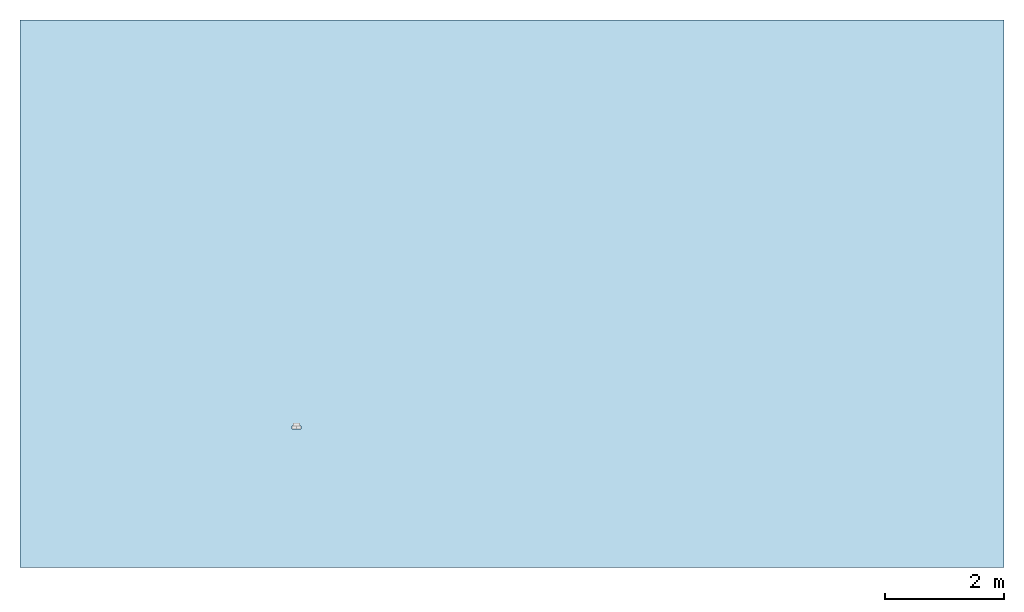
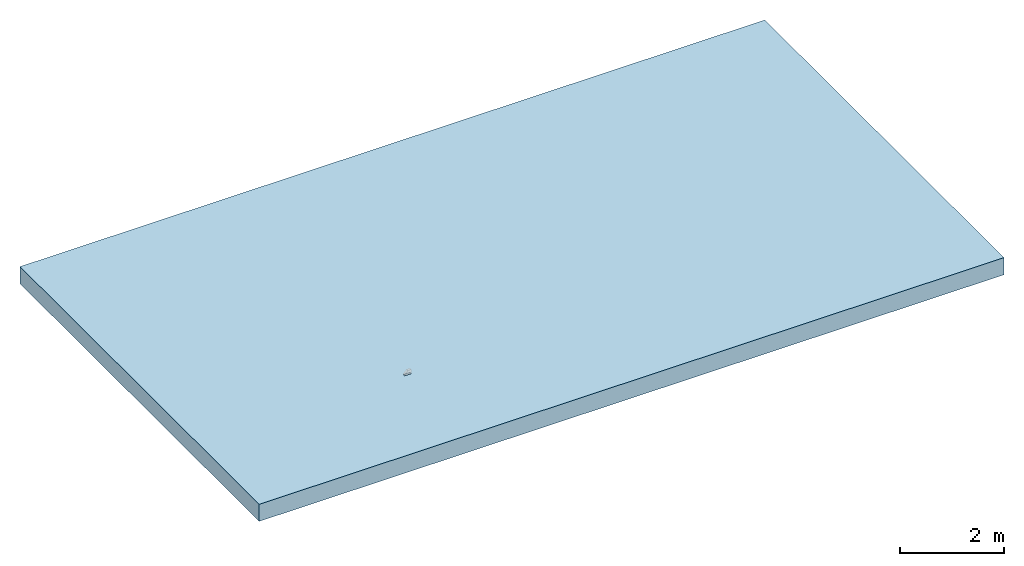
# One storey, part 1 of 2: 1 slab, 2 openings.
"""IFC2X3 building model written with IfcOpenShell, lengths in millimetres."""

from ifc_helpers import new_model, entity, si_unit, converted_unit, direction, frame, frame_2d, origin, origin_2d_with_axis, place, context, subcontext, project, spatial, rectangle, extrude, faceted_brep, material, layer, layer_set, layer_usage, element, save


model = new_model("IFC2X3")

# Units and contexts
model_context = context("Model", 3, precision=1e-06, world=origin(), true_north=direction((2.0, 6.12303176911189e-17, 1.0)))
context_of_model = context(None, 3, precision=1e-06, world=origin(), true_north=direction((2.0, 6.12303176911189e-17, 1.0)))
body_context = subcontext(model_context, "Body", "Model", "MODEL_VIEW")
ifc_project = project(units=[si_unit("LENGTHUNIT", "METRE", prefix="MILLI"), si_unit("AREAUNIT", "SQUARE_METRE", prefix="MILLI"), si_unit("VOLUMEUNIT", "CUBIC_METRE", prefix="MILLI"), converted_unit("PLANEANGLEUNIT", "DEGREE", entity("IfcRatioMeasure", 0.0174532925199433), si_unit("PLANEANGLEUNIT", "RADIAN"), dimensions=[0, 0, 0, 0, 0, 0, 0]), si_unit("TIMEUNIT", "SECOND")], contexts=[model_context, context_of_model])

# Site, building, storey
site_placement = place(None, origin())
site = spatial("IfcSite", under=ifc_project, at=site_placement, Name="Default", CompositionType="ELEMENT")
building_placement = place(site_placement, origin())
building = spatial("IfcBuilding", under=site, at=building_placement, CompositionType="ELEMENT")
storey_placement = place(building_placement, origin())
storey = spatial("IfcBuildingStorey", under=building, at=storey_placement, Name="Level 1", CompositionType="ELEMENT", Elevation=0.0)

# Slab, openings
ifc_material = material(Name="Plant")
ifc_layer = layer(ifc_material, 400.0)
ifc_layer_set = layer_set([ifc_layer], Name="Floor:Generic Floor - 400mm")
ifc_layer_usage = layer_usage(ifc_layer_set, "AXIS3", "POSITIVE", 0.0)
slab_placement = place(storey_placement, frame((-17967.0691536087, -3738.31688706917, -400.0)))
slab = element("IfcSlab", 1, at=slab_placement, inside=storey, material=ifc_layer_usage, Name="Floor:Generic Floor - 400mm", ObjectType="Floor:Generic Floor - 400mm", PredefinedType="FLOOR", context=body_context, shape_type="SweptSolid", body=[
    extrude(rectangle(XDim=9180.0, YDim=16500.0, at=frame_2d((0.0, 0.0), x_axis=(0.0, -1.0))), frame((8250.0, 4590.0, 400.0), z_axis=(0.0, 0.0, -1.0), x_axis=(-1.0, 0.0, 0.0)), (0.0, 0.0, 1.0), 400.0),
])
opening_1_placement = place(slab_placement, frame((4561.79407136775, 2325.59509511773, 120.0)))
element("IfcOpeningElement", 2, at=opening_1_placement, cuts=slab, ObjectType="Recess", context=body_context, shape_type="SweptSolid", body=[
    extrude(rectangle(XDim=280.350941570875, YDim=1.99999999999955, at=origin_2d_with_axis()), frame((4562.79407136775, 2575.77056590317, -1754.0), z_axis=(0.0, 0.0, 1.0), x_axis=(0.0, 1.0, 0.0)), (0.0, 0.0, 1.0), 279.000000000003),
])
opening_2_placement = place(slab_placement, frame((4561.79407136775, 2325.59509511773, 120.0)))
element("IfcOpeningElement", 3, at=opening_2_placement, cuts=slab, ObjectType="Recess", context=body_context, shape_type="Brep", body=[
    faceted_brep([(0.0, 50.0, 280.0), (150.0, 50.0, 280.0), (150.0, 0.0, 280.0), (0.0, 0.0, 280.0), (150.0, 50.0, 0.0), (0.0, 50.0, 0.0), (0.0, 0.0, 0.0), (150.0, 0.0, 0.0), (88.8205457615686, 50.0, 128.134042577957), (102.085498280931, 50.0, 122.639519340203), (113.476371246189, 50.0, 113.898995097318), (74.5854982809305, 50.0, 130.008122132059), (127.71141872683, 50.0, 89.2431696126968), (129.585498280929, 50.0, 75.0081221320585), (122.216895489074, 50.0, 102.508122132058), (60.3504508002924, 50.0, 128.134042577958), (47.0854982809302, 50.0, 122.639519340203), (35.6946253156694, 50.0, 113.89899509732), (21.4595778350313, 50.0, 89.2431696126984), (26.9541010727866, 50.0, 102.50812213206), (127.711418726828, 50.0, 60.77307465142), (122.216895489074, 50.0, 47.5081221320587), (113.476371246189, 50.0, 36.1172491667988), (88.8205457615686, 50.0, 21.8822016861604), (102.085498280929, 50.0, 27.3767249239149), (74.5854982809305, 50.0, 20.0081221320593), (26.9541010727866, 50.0, 47.5081221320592), (21.4595778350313, 50.0, 60.7730746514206), (19.58549828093, 50.0, 75.0081221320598), (60.3504508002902, 50.0, 21.8822016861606), (47.0854982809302, 50.0, 27.3767249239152), (35.6946253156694, 50.0, 36.1172491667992), (60.3504508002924, 100.0, 21.8822016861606), (74.5854982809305, 100.0, 130.008122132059), (60.3504508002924, 100.0, 128.134042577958), (102.085498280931, 100.0, 122.639519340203), (88.8205457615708, 100.0, 128.134042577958), (113.476371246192, 100.0, 113.898995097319), (122.216895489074, 100.0, 102.508122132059), (122.216895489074, 100.0, 47.508122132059), (88.8205457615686, 100.0, 21.8822016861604), (102.085498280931, 100.0, 27.3767249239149), (47.0854982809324, 100.0, 122.639519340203), (35.6946253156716, 100.0, 113.898995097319), (35.6946253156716, 100.0, 36.1172491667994), (19.58549828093, 100.0, 75.0081221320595), (21.4595778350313, 100.0, 60.7730746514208), (21.4595778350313, 100.0, 89.2431696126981), (26.9541010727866, 100.0, 102.508122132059), (127.71141872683, 100.0, 89.2431696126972), (127.71141872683, 100.0, 60.7730746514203), (113.476371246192, 100.0, 36.1172491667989), (26.9541010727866, 100.0, 47.5081221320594), (47.0854982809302, 100.0, 27.3767249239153), (74.5854982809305, 100.0, 20.0081221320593), (129.585498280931, 100.0, 75.0081221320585)], [[[0, 1, 2]], [[2, 3, 0]], [[4, 5, 6]], [[6, 7, 4]], [[8, 9, 1]], [[10, 1, 9]], [[11, 8, 1]], [[12, 13, 4]], [[1, 10, 14]], [[1, 14, 12]], [[4, 1, 12]], [[15, 11, 0]], [[1, 0, 11]], [[16, 15, 0]], [[0, 17, 16]], [[0, 18, 19]], [[0, 19, 17]], [[5, 18, 0]], [[4, 20, 21]], [[4, 21, 22]], [[23, 4, 24]], [[22, 24, 4]], [[4, 23, 25]], [[25, 5, 4]], [[4, 13, 20]], [[5, 26, 27]], [[5, 27, 28]], [[5, 29, 30]], [[26, 5, 31]], [[30, 31, 5]], [[5, 25, 29]], [[18, 5, 28]], [[5, 0, 3]], [[3, 6, 5]], [[6, 3, 2]], [[2, 7, 6]], [[7, 2, 1]], [[1, 4, 7]], [[32, 33, 34]], [[35, 36, 37]], [[38, 37, 39]], [[33, 40, 36]], [[36, 41, 37]], [[42, 43, 34]], [[44, 34, 43]], [[45, 46, 47]], [[47, 46, 48]], [[44, 43, 48]], [[38, 39, 49]], [[50, 49, 39]], [[51, 39, 37]], [[41, 36, 40]], [[41, 51, 37]], [[32, 40, 33]], [[46, 52, 48]], [[48, 52, 44]], [[53, 32, 44]], [[34, 44, 32]], [[32, 54, 40]], [[55, 49, 50]], [[49, 55, 12]], [[38, 49, 14]], [[36, 35, 9]], [[33, 36, 8]], [[12, 14, 49]], [[55, 13, 12]], [[9, 37, 10]], [[38, 14, 10]], [[35, 37, 9]], [[9, 8, 36]], [[37, 38, 10]], [[8, 11, 33]], [[42, 34, 15]], [[42, 16, 43]], [[47, 48, 19]], [[17, 48, 43]], [[45, 47, 18]], [[11, 15, 34]], [[15, 16, 42]], [[16, 17, 43]], [[17, 19, 48]], [[47, 19, 18]], [[18, 28, 45]], [[33, 11, 34]], [[45, 27, 46]], [[46, 26, 52]], [[29, 54, 32]], [[52, 31, 44]], [[27, 26, 46]], [[45, 28, 27]], [[29, 53, 30]], [[44, 31, 30]], [[29, 32, 53]], [[52, 26, 31]], [[30, 53, 44]], [[29, 25, 54]], [[41, 40, 23]], [[41, 24, 51]], [[50, 39, 21]], [[22, 39, 51]], [[55, 50, 20]], [[25, 23, 40]], [[23, 24, 41]], [[24, 22, 51]], [[22, 21, 39]], [[50, 21, 20]], [[20, 13, 55]], [[54, 25, 40]]]),
])

save(model, "model.ifc")
